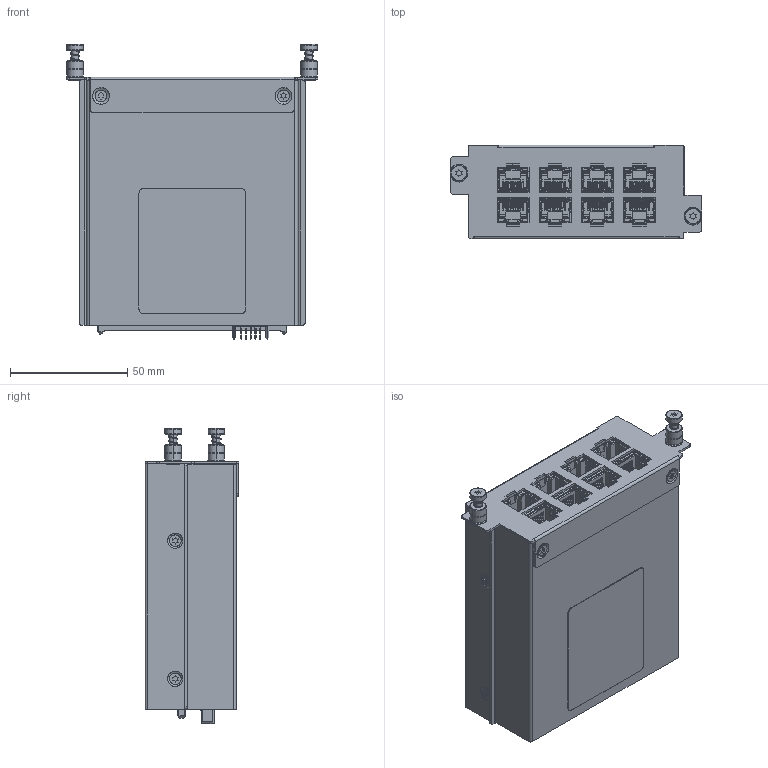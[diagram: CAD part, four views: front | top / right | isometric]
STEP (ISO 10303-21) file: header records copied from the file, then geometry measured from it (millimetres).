
FILE_DESCRIPTION((''),'2;1');
FILE_NAME('RM_G4000_8POE_3D_SW000123','2022-06-19T15:12:48',('VicWM_Chen'),('PTC'),'CREO PARAMETRIC BY PTC INC, 2018020','CREO PARAMETRIC BY PTC INC, 2018020','');
FILE_SCHEMA(('AUTOMOTIVE_DESIGN { 1 0 10303 214 1 1 1 1 }'));
Products named in the file (1): RM_G4000_8POE_3D_SW000123
Bounding box: 107.6 x 40.1 x 126.1 mm (x, y, z)
Surface area: 130440.2 mm2 (no closed solid volume)
Topology: 0 solids, 2074 shells, 2074 faces, 17946 edges, 17946 vertices
Faces by surface type: plane 1429, cylinder 466, cone 83, torus 79, bspline 16, sphere 1
Entity records: 193071 total; most frequent: CARTESIAN_POINT 56486, DIRECTION 20753, VERTEX_POINT 17946, ORIENTED_EDGE 17946, EDGE_CURVE 17946, VECTOR 14121, LINE 14121, AXIS2_PLACEMENT_3D 3316
